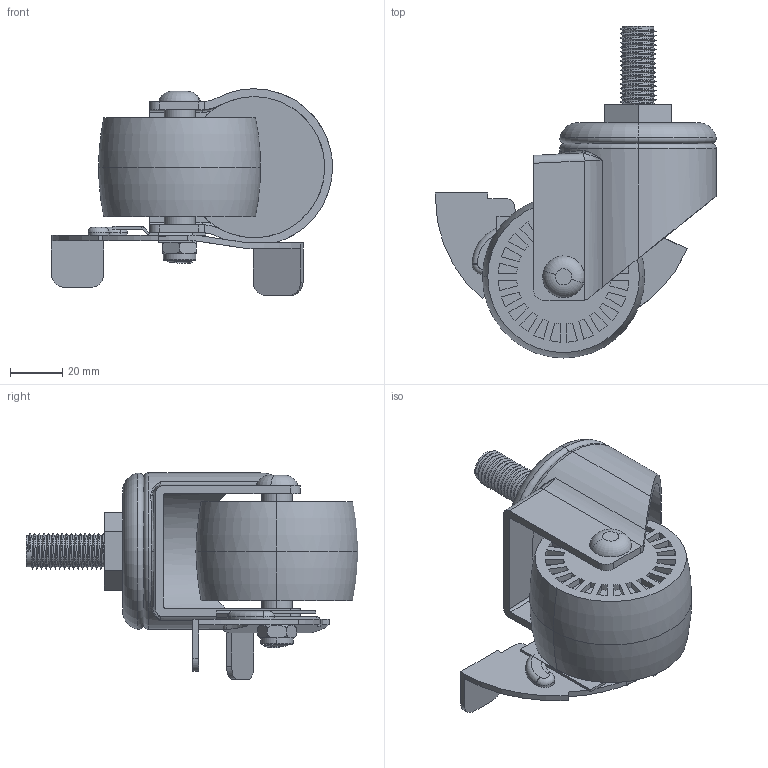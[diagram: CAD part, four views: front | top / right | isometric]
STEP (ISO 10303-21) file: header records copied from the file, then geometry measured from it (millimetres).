
FILE_DESCRIPTION (( 'STEP AP203' ), '1' );
FILE_NAME ('25JP16BT.STEP', '2018-01-26T06:09:06', ( '' ), ( '' ), 'SwSTEP 2.0', 'SolidWorks 2014', '' );
FILE_SCHEMA (( 'CONFIG_CONTROL_DESIGN' ));
Length unit declared in the file: millimetre
Products named in the file (9): 螺帽M8; 螺絲M8X65; 剎車架美國-A; 套管; 牙式底盤美國40; 輪-美國25; 25JP16BT; 活動架美國-25; 剎車架美國-B
Assembly tree (8 placements, depth 2):
  25JP16BT
    活動架美國-25
    套管
    輪-美國25
    螺帽M8
    螺絲M8X65
    剎車架美國-A
    剎車架美國-B
    牙式底盤美國40
Bounding box: 107.5 x 127 x 79 mm (x, y, z)
Volume: 175633.8 mm3; surface area: 64299.8 mm2
Topology: 8 solids, 8 shells, 511 faces, 1261 edges, 821 vertices
Faces by surface type: plane 248, cylinder 213, torus 35, bspline 15
Full cylindrical faces by diameter (mm): 8 x10
Entity records: 20779 total; most frequent: CARTESIAN_POINT 7762, ORIENTED_EDGE 2556, DIRECTION 2504, EDGE_CURVE 1278, AXIS2_PLACEMENT_3D 910, VERTEX_POINT 841, VECTOR 684, LINE 684
